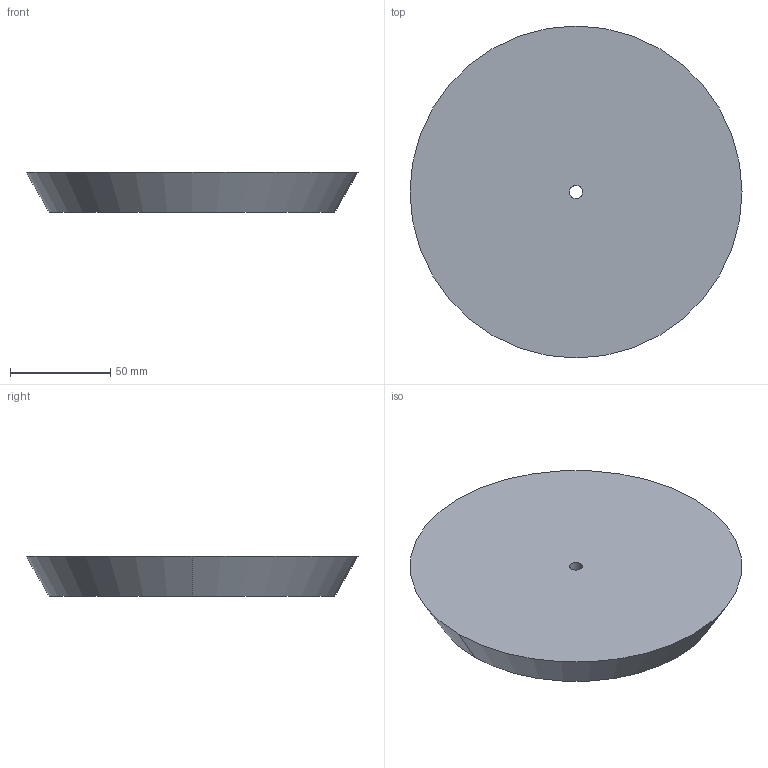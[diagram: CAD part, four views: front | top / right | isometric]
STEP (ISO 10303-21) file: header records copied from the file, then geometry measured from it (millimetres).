
FILE_DESCRIPTION(('CATIA V5 STEP Exchange'),'2;1');
FILE_NAME('C:\Users\andres.garcia\OneDrive - IQS\ASIGNATURAS\DAO\Controles\2223\c0\c1-SIRVENT_Isidro-tapon.stp','2023-02-03T08:22:07+00:00',('none'),('none'),'CATIA Version 5-6 Release 2013 SP6','CATIA V5 STEP AP203','none');
FILE_SCHEMA(('CONFIG_CONTROL_DESIGN'));
Length unit declared in the file: millimetre
Products named in the file (1): c1-SIRVENT_Isidro-tapon
Bounding box: 166 x 166 x 20 mm (x, y, z)
Volume: 374759.4 mm3; surface area: 49229.8 mm2
Topology: 1 solids, 1 shells, 6 faces, 12 edges, 8 vertices
Faces by surface type: cylinder 2, plane 2, cone 2
Entity records: 196 total; most frequent: CARTESIAN_POINT 26, ORIENTED_EDGE 24, DIRECTION 22, AXIS2_PLACEMENT_3D 14, EDGE_CURVE 12, CIRCLE 8, EDGE_LOOP 8, VERTEX_POINT 8
